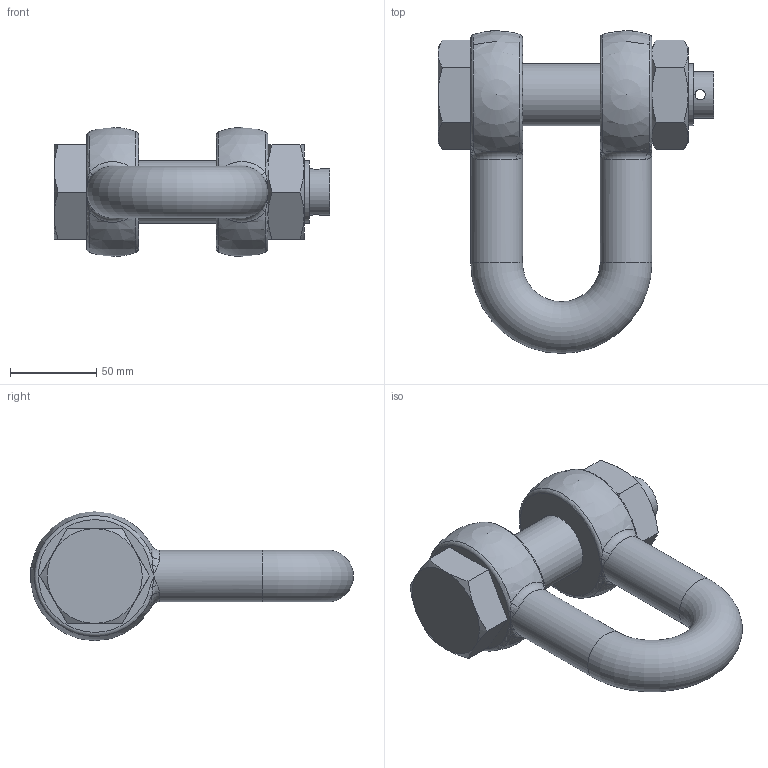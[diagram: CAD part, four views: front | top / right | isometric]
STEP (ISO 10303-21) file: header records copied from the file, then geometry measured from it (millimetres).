
FILE_DESCRIPTION(/* description */ (''),/* implementation_level */ '2;1');
FILE_NAME(/* name */ 'C:\Users\D\Documents\Inventor\HP\吊具\シャックル\SB_2\sb_30.stp',/* time_stamp */ '2024-11-14T11:44:44+09:00',/* author */ ('D'),/* organization */ (''),/* preprocessor_version */ 'ST-DEVELOPER v18',/* originating_system */ 'Autodesk Inventor 2020',/* authorisation */ '');
FILE_SCHEMA (('AUTOMOTIVE_DESIGN { 1 0 10303 214 3 1 1 }'));
Length unit declared in the file: millimetre
Products named in the file (3): sb_30; sb_6; sb_pin_10
Assembly tree (2 placements, depth 2):
  sb_30
    sb_6
    sb_pin_10
Bounding box: 160 x 187.23 x 75 mm (x, y, z)
Volume: 576799.4 mm3; surface area: 82139.3 mm2
Topology: 2 solids, 2 shells, 83 faces, 217 edges, 121 vertices
Faces by surface type: bspline 24, plane 22, cone 18, torus 9, cylinder 8, sphere 2
Full cylindrical faces by diameter (mm): 6 x1, 27 x1, 30 x2, 36 x2, 37 x2
Entity records: 3212 total; most frequent: CARTESIAN_POINT 1379, ORIENTED_EDGE 394, DIRECTION 333, EDGE_CURVE 197, AXIS2_PLACEMENT_3D 153, VERTEX_POINT 121, EDGE_LOOP 92, CIRCLE 89
